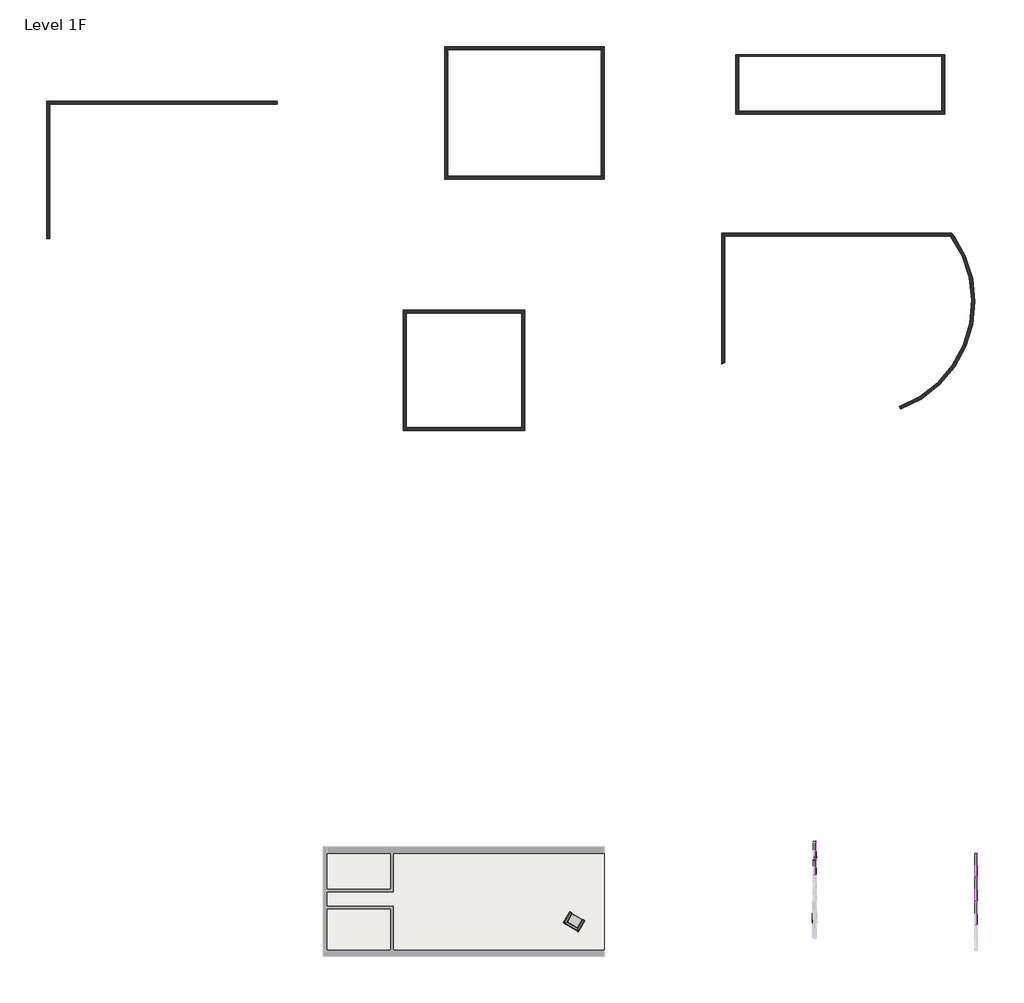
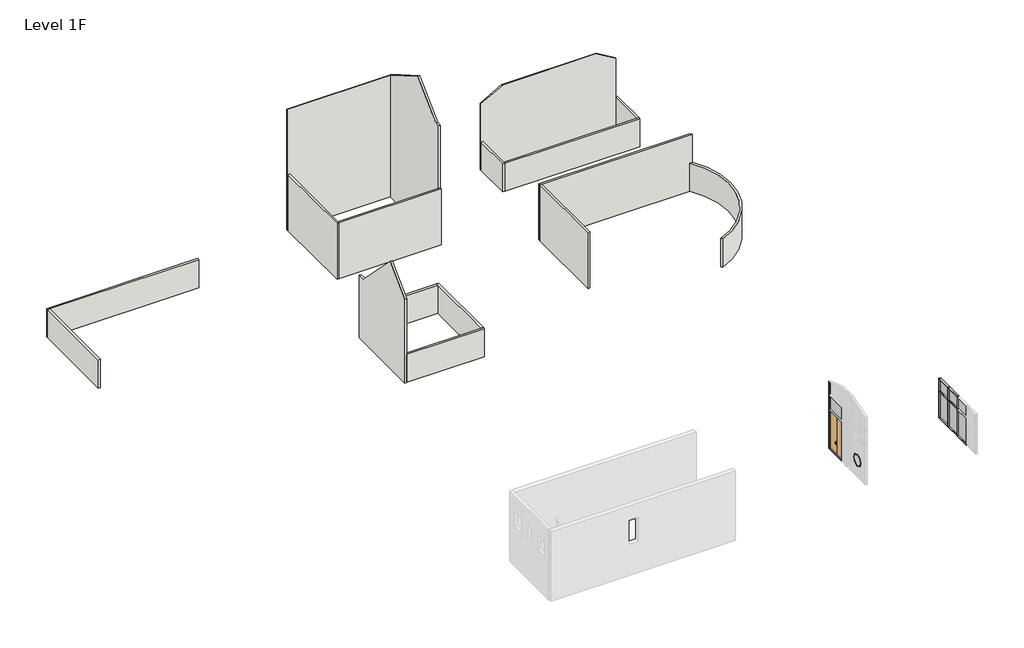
# One storey, part 2 of 2: 17 members, 17 walls, 7 plates, 2 proxies, 1 door, 1 furniture element, 1 slab.
"""IFC4 building model written with IfcOpenShell, lengths in millimetres."""

from ifc_helpers import new_model, si_unit, point, frame, frame_2d, origin, place, context, project, spatial, polyline, circle_curve, trimmed, segment, composite_curve, outline, extrude, faceted_brep, transform, mapped, element, save
from ifc_brep_helpers import plane_surface, cylinder_surface, revolved_surface, advanced_brep
from components import m_trim_window_exterior_flat_round_picture_frame_20400262, m_door_curtain_wall_double_glass_m_door_curtain_wall_double_733e1639, m_chair_corbu_m_chair_corbu_62085674, rectangular_mullion_50_x_150mm_53f686a5, rectangular_mullion_50_x_150mm_8f456225, rectangular_mullion_50_x_150mm_18e46138, rectangular_mullion_50_x_150mm_87e1da99, rectangular_mullion_50_x_150mm_6225e4e3, rectangular_mullion_50_x_150mm_662c37b1, rectangular_mullion_50_x_150mm_b3a53f5b, rectangular_mullion_50_x_150mm_00d54206, rectangular_mullion_50_x_150mm_5f5d7509, rectangular_mullion_50_x_150mm_06e5b0ac, rectangular_mullion_50_x_150mm_1e3c48d4, rectangular_mullion_50_x_150mm_128d93fb, system_panel_glazed_f465e8e4, system_panel_glazed_e98588a4, system_panel_glazed_da0c020f, system_panel_glazed_390bf5ad, system_panel_glazed_fd5f4e28

model = new_model("IFC4")

# Units and contexts
model_context = context("Model", 3, world=origin())
ifc_project = project(units=[si_unit("LENGTHUNIT", "METRE", prefix="MILLI")], contexts=[model_context])

# Site, building, storey
site = spatial("IfcSite", under=ifc_project)
building = spatial("IfcBuilding", under=site)
storey = spatial("IfcBuildingStorey", under=building, Name="Level 1F", Elevation=100.0)

# Proxies
placement = place(None, origin())
m_trim_window_exterior_flat_round_picture_frame_shape = m_trim_window_exterior_flat_round_picture_frame_20400262(model_context)
element("IfcBuildingElementProxy", 1, Name="M_Trim-Window-Exterior-Flat-Round : Picture Frame", ObjectType="M_Trim-Window-Exterior-Flat-Round : Picture Frame", at=placement, inside=storey, context=model_context, shape_type="MappedRepresentation", body=[
    mapped(m_trim_window_exterior_flat_round_picture_frame_shape, transform((19526.2760724, -10895.0423226, 2090.2249317), x_axis=(0.0, 1.0, 0.0), y_axis=(0.0, 0.0, 1.0), z_axis=(1.0, 0.0, 0.0))),
])
element("IfcBuildingElementProxy", 2, Name="M_Trim-Window-Interior-Flat-Round : Picture Frame", ObjectType="M_Trim-Window-Interior-Flat-Round : Picture Frame", at=placement, inside=storey, context=model_context, shape_type="MappedRepresentation", body=[
    mapped(m_trim_window_exterior_flat_round_picture_frame_shape, transform((19326.2760724, -10895.0423226, 2090.2249317), x_axis=(0.0, -1.0, 0.0), y_axis=(0.0, 0.0, 1.0), z_axis=(-1.0, 0.0, 0.0))),
])

# Door
m_door_curtain_wall_double_glass_m_door_curtain_wall_double_shape = m_door_curtain_wall_double_glass_m_door_curtain_wall_double_733e1639(model_context)
element("IfcDoor", 3, ObjectType="M_Door-Curtain-Wall-Double-Glass : M_Door-Curtain-Wall-Double-Glass", at=placement, inside=storey, context=model_context, shape_type="MappedRepresentation", body=[
    mapped(m_door_curtain_wall_double_glass_m_door_curtain_wall_double_shape, transform((19426.2760724, -7634.3966791, 150.0), x_axis=(0.0, -1.0, 0.0), y_axis=(1.0, 0.0, 0.0), z_axis=(0.0, 0.0, 1.0))),
])

# Furniture
m_chair_corbu_m_chair_corbu_shape = m_chair_corbu_m_chair_corbu_62085674(model_context)
element("IfcFurniture", 4, ObjectType="M_Chair-Corbu : M_Chair-Corbu", at=placement, inside=storey, context=model_context, shape_type="MappedRepresentation", body=[
    mapped(m_chair_corbu_m_chair_corbu_shape, transform((6893.346578, -10996.1335961, 100.0), x_axis=(-0.8660254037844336, 0.5000000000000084, 0.0), y_axis=(-0.5000000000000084, -0.8660254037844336, 0.0), z_axis=(0.0, 0.0, 1.0))),
])

# Members
rectangular_mullion_50_x_150mm_shape = rectangular_mullion_50_x_150mm_53f686a5(model_context)
element("IfcMember", 5, ObjectType="Rectangular Mullion : 50 x 150mm", at=placement, inside=storey, context=model_context, shape_type="MappedRepresentation", body=[
    mapped(rectangular_mullion_50_x_150mm_shape, transform((28326.2760724, -8634.3966792, 3613.7564813), x_axis=(0.0, 0.0, 1.0), y_axis=(-1.0, 0.0, 0.0), z_axis=(0.0, -1.0, 0.0))),
])
element("IfcMember", 6, ObjectType="Rectangular Mullion : 50 x 150mm", at=placement, inside=storey, context=model_context, shape_type="MappedRepresentation", body=[
    mapped(rectangular_mullion_50_x_150mm_shape, transform((28326.2760724, -7371.8966791, 100.0), x_axis=(0.0, 0.0, -1.0), y_axis=(-1.0, 0.0, 0.0), z_axis=(0.0, 1.0, 0.0))),
])
rectangular_mullion_50_x_150mm_2_shape = rectangular_mullion_50_x_150mm_8f456225(model_context)
element("IfcMember", 7, ObjectType="Rectangular Mullion : 50 x 150mm", at=placement, inside=storey, context=model_context, shape_type="MappedRepresentation", body=[
    mapped(rectangular_mullion_50_x_150mm_2_shape, transform((28326.2760724, -9971.8966791, 3613.7564813), x_axis=(0.0, 0.0, 1.0), y_axis=(-1.0, 0.0, 0.0), z_axis=(0.0, -1.0, 0.0))),
])
element("IfcMember", 8, ObjectType="Rectangular Mullion : 50 x 150mm", at=placement, inside=storey, context=model_context, shape_type="MappedRepresentation", body=[
    mapped(rectangular_mullion_50_x_150mm_2_shape, transform((28326.2760724, -8684.3966792, 100.0), x_axis=(0.0, 0.0, -1.0), y_axis=(-1.0, 0.0, 0.0), z_axis=(0.0, 1.0, 0.0))),
])
element("IfcMember", 9, ObjectType="Rectangular Mullion : 50 x 150mm", at=placement, inside=storey, context=model_context, shape_type="MappedRepresentation", body=[
    mapped(rectangular_mullion_50_x_150mm_2_shape, transform((28326.2760724, -10021.8966791, 100.0), x_axis=(0.0, 0.0, -1.0), y_axis=(-1.0, 0.0, 0.0), z_axis=(0.0, 1.0, 0.0))),
])
rectangular_mullion_50_x_150mm_3_shape = rectangular_mullion_50_x_150mm_18e46138(model_context)
element("IfcMember", 10, ObjectType="Rectangular Mullion : 50 x 150mm", at=placement, inside=storey, context=model_context, shape_type="MappedRepresentation", body=[
    mapped(rectangular_mullion_50_x_150mm_3_shape, transform((28326.2760724, -8634.3966792, 2500.0), x_axis=(0.0, 0.0, 1.0), y_axis=(-1.0, 0.0, 0.0), z_axis=(0.0, -1.0, 0.0))),
])
rectangular_mullion_50_x_150mm_4_shape = rectangular_mullion_50_x_150mm_87e1da99(model_context)
element("IfcMember", 11, ObjectType="Rectangular Mullion : 50 x 150mm", at=placement, inside=storey, context=model_context, shape_type="MappedRepresentation", body=[
    mapped(rectangular_mullion_50_x_150mm_4_shape, transform((28326.2760724, -9971.8966791, 2500.0), x_axis=(0.0, 0.0, 1.0), y_axis=(-1.0, 0.0, 0.0), z_axis=(0.0, -1.0, 0.0))),
])
rectangular_mullion_50_x_150mm_5_shape = rectangular_mullion_50_x_150mm_6225e4e3(model_context)
element("IfcMember", 12, ObjectType="Rectangular Mullion : 50 x 150mm", at=placement, inside=storey, context=model_context, shape_type="MappedRepresentation", body=[
    mapped(rectangular_mullion_50_x_150mm_5_shape, transform((28326.2760724, -8659.3966792, 100.0), x_axis=(0.0, -1.0, 0.0), y_axis=(-1.0, 0.0, 0.0), z_axis=(0.0, 0.0, -1.0))),
])
element("IfcMember", 13, ObjectType="Rectangular Mullion : 50 x 150mm", at=placement, inside=storey, context=model_context, shape_type="MappedRepresentation", body=[
    mapped(rectangular_mullion_50_x_150mm_5_shape, transform((28326.2760724, -9996.8966791, 100.0), x_axis=(0.0, -1.0, 0.0), y_axis=(-1.0, 0.0, 0.0), z_axis=(0.0, 0.0, -1.0))),
])
rectangular_mullion_50_x_150mm_6_shape = rectangular_mullion_50_x_150mm_662c37b1(model_context)
element("IfcMember", 14, ObjectType="Rectangular Mullion : 50 x 150mm", at=placement, inside=storey, context=model_context, shape_type="MappedRepresentation", body=[
    mapped(rectangular_mullion_50_x_150mm_6_shape, transform((28326.2760724, -7321.8966791, 2500.0), x_axis=(0.0, 1.0, 0.0), y_axis=(-1.0, 0.0, 0.0), z_axis=(0.0, 0.0, 1.0))),
])
rectangular_mullion_50_x_150mm_7_shape = rectangular_mullion_50_x_150mm_b3a53f5b(model_context)
element("IfcMember", 15, ObjectType="Rectangular Mullion : 50 x 150mm", at=placement, inside=storey, context=model_context, shape_type="MappedRepresentation", body=[
    mapped(rectangular_mullion_50_x_150mm_7_shape, transform((28326.2760724, -8659.3966792, 2500.0), x_axis=(0.0, -1.0, 0.0), y_axis=(-1.0, 0.0, 0.0), z_axis=(0.0, 0.0, -1.0))),
])
element("IfcMember", 16, ObjectType="Rectangular Mullion : 50 x 150mm", at=placement, inside=storey, context=model_context, shape_type="MappedRepresentation", body=[
    mapped(rectangular_mullion_50_x_150mm_7_shape, transform((28326.2760724, -9996.8966791, 2500.0), x_axis=(0.0, -1.0, 0.0), y_axis=(-1.0, 0.0, 0.0), z_axis=(0.0, 0.0, -1.0))),
])
rectangular_mullion_50_x_150mm_8_shape = rectangular_mullion_50_x_150mm_00d54206(model_context)
element("IfcMember", 17, ObjectType="Rectangular Mullion : 50 x 150mm", at=placement, inside=storey, context=model_context, shape_type="MappedRepresentation", body=[
    mapped(rectangular_mullion_50_x_150mm_8_shape, transform((28326.2760724, -7321.8966791, 3613.7564813), x_axis=(0.0, 1.0, 0.0), y_axis=(-1.0, 0.0, 0.0), z_axis=(0.0, 0.0, 1.0))),
])
rectangular_mullion_50_x_150mm_9_shape = rectangular_mullion_50_x_150mm_5f5d7509(model_context)
element("IfcMember", 18, ObjectType="Rectangular Mullion : 50 x 150mm", at=placement, inside=storey, context=model_context, shape_type="MappedRepresentation", body=[
    mapped(rectangular_mullion_50_x_150mm_9_shape, transform((19426.2760724, -6721.8966791, 100.0), x_axis=(0.0, 0.0, -1.0), y_axis=(-1.0, 0.0, 0.0), z_axis=(0.0, 1.0, 0.0))),
])
rectangular_mullion_50_x_150mm_10_shape = rectangular_mullion_50_x_150mm_06e5b0ac(model_context)
element("IfcMember", 19, ObjectType="Rectangular Mullion : 50 x 150mm", at=placement, inside=storey, context=model_context, shape_type="MappedRepresentation", body=[
    mapped(rectangular_mullion_50_x_150mm_10_shape, transform((19426.2760724, -6671.8966791, 3600.0), x_axis=(0.0, 1.0, 0.0), y_axis=(-1.0, 0.0, 0.0), z_axis=(0.0, 0.0, 1.0))),
])
rectangular_mullion_50_x_150mm_11_shape = rectangular_mullion_50_x_150mm_1e3c48d4(model_context)
element("IfcMember", 20, ObjectType="Rectangular Mullion : 50 x 150mm", at=placement, inside=storey, context=model_context, shape_type="MappedRepresentation", body=[
    mapped(rectangular_mullion_50_x_150mm_11_shape, transform((19426.2760724, -6671.8966791, 4900.0), x_axis=(0.0, 1.0, 0.0), y_axis=(-1.0, 0.0, 0.0), z_axis=(0.0, 0.0, 1.0))),
])
rectangular_mullion_50_x_150mm_12_shape = rectangular_mullion_50_x_150mm_128d93fb(model_context)
element("IfcMember", 21, ObjectType="Rectangular Mullion : 50 x 150mm", at=placement, inside=storey, context=model_context, shape_type="MappedRepresentation", body=[
    mapped(rectangular_mullion_50_x_150mm_12_shape, transform((19426.2760724, -6671.8966791, 6075.169852), x_axis=(0.0, 1.0, 0.0), y_axis=(-1.0, 0.0, 0.0), z_axis=(0.0, 0.0, 1.0))),
])

# Plates
system_panel_glazed_shape = system_panel_glazed_f465e8e4(model_context)
element("IfcPlate", 22, ObjectType="System Panel : Glazed", at=placement, inside=storey, context=model_context, shape_type="MappedRepresentation", body=[
    mapped(system_panel_glazed_shape, transform((28326.2760724, -8003.1466791, 150.0), x_axis=(0.0, -1.0, 0.0), y_axis=(1.0, 0.0, 0.0), z_axis=(0.0, 0.0, 1.0))),
])
system_panel_glazed_2_shape = system_panel_glazed_e98588a4(model_context)
element("IfcPlate", 23, ObjectType="System Panel : Glazed", at=placement, inside=storey, context=model_context, shape_type="MappedRepresentation", body=[
    mapped(system_panel_glazed_2_shape, transform((28326.2760724, -9328.1466791, 150.0), x_axis=(0.0, -1.0, 0.0), y_axis=(1.0, 0.0, 0.0), z_axis=(0.0, 0.0, 1.0))),
])
element("IfcPlate", 24, ObjectType="System Panel : Glazed", at=placement, inside=storey, context=model_context, shape_type="MappedRepresentation", body=[
    mapped(system_panel_glazed_2_shape, transform((28326.2760724, -10665.646679, 150.0), x_axis=(0.0, -1.0, 0.0), y_axis=(1.0, 0.0, 0.0), z_axis=(0.0, 0.0, 1.0))),
])
system_panel_glazed_3_shape = system_panel_glazed_da0c020f(model_context)
element("IfcPlate", 25, ObjectType="System Panel : Glazed", at=placement, inside=storey, context=model_context, shape_type="MappedRepresentation", body=[
    mapped(system_panel_glazed_3_shape, transform((28326.2760724, -8003.1466791, 2525.0), x_axis=(0.0, -1.0, 0.0), y_axis=(1.0, 0.0, 0.0), z_axis=(0.0, 0.0, 1.0))),
])
system_panel_glazed_4_shape = system_panel_glazed_390bf5ad(model_context)
element("IfcPlate", 26, ObjectType="System Panel : Glazed", at=placement, inside=storey, context=model_context, shape_type="MappedRepresentation", body=[
    mapped(system_panel_glazed_4_shape, transform((28326.2760724, -9328.1466791, 2525.0), x_axis=(0.0, -1.0, 0.0), y_axis=(1.0, 0.0, 0.0), z_axis=(0.0, 0.0, 1.0))),
])
element("IfcPlate", 27, ObjectType="System Panel : Glazed", at=placement, inside=storey, context=model_context, shape_type="MappedRepresentation", body=[
    mapped(system_panel_glazed_4_shape, transform((28326.2760724, -10665.646679, 2525.0), x_axis=(0.0, -1.0, 0.0), y_axis=(1.0, 0.0, 0.0), z_axis=(0.0, 0.0, 1.0))),
])
system_panel_glazed_5_shape = system_panel_glazed_fd5f4e28(model_context)
element("IfcPlate", 28, ObjectType="System Panel : Glazed", at=placement, inside=storey, context=model_context, shape_type="MappedRepresentation", body=[
    mapped(system_panel_glazed_5_shape, transform((19426.2760724, -7634.3966791, 3625.0), x_axis=(0.0, -1.0, 0.0), y_axis=(1.0, 0.0, 0.0), z_axis=(0.0, 0.0, 1.0))),
])

# Slab
element("IfcSlab", 29, ObjectType="Standard Timber-Wood Finish", at=placement, inside=storey, context=model_context, shape_type="Brep", body=[
    faceted_brep([(7826.2760724, -7308.8966791, -141.0), (7826.2760724, -7321.8966791, -141.0), (7826.2760724, -12671.8966791, -141.0), (7826.2760724, -12684.8966791, -141.0), (-7473.7239276, -12684.8966791, -141.0), (-7473.7239276, -12671.8966791, -141.0), (-7473.7239276, -7321.8966791, -141.0), (-7473.7239276, -7308.8966791, -141.0), (7826.2760724, -7308.8966791, 100.0), (-7473.7239276, -7308.8966791, 100.0), (-7473.7239276, -7321.8966791, 100.0), (-7473.7239276, -12671.8966791, 100.0), (-7473.7239276, -12684.8966791, 100.0), (7826.2760724, -12684.8966791, 100.0), (7826.2760724, -12671.8966791, 100.0), (7826.2760724, -7321.8966791, 100.0)], [[[0, 1, 2, 3, 4, 5, 6, 7]], [[8, 9, 10, 11, 12, 13, 14, 15]], [[3, 2, 1, 0, 8, 15, 14, 13]], [[4, 3, 13, 12]], [[7, 6, 5, 4, 12, 11, 10, 9]], [[0, 7, 9, 8]]]),
])

# Walls
element("IfcWall", 30, ObjectType="Generic - 90mm Brick", at=placement, inside=storey, context=model_context, shape_type="Brep", body=[
    faceted_brep([(15073.1735776, 36641.5338083, 100.0), (15237.1735776, 36641.5338083, 100.0), (26426.0199122, 36641.5338083, 100.0), (26426.0199122, 36641.5338083, 6094.6854441), (24730.9691046, 36641.5338083, 7073.3234842), (16932.2243852, 36641.5338083, 7073.3234842), (15073.1735776, 36641.5338083, 6000.0), (15073.1735776, 36641.5338083, 2600.0), (15073.1735776, 36731.5338083, 100.0), (15073.1735776, 36731.5338083, 6000.0), (16842.2243852, 36731.5338083, 7021.36196), (24820.9691046, 36731.5338083, 7021.36196), (26426.0199122, 36731.5338083, 6094.6854441), (26426.0199122, 36731.5338083, 2600.0), (26426.0199122, 36731.5338083, 100.0)], [[[0, 1, 2, 3, 4, 5, 6, 7]], [[8, 9, 10, 11, 12, 13, 14]], [[2, 1, 0, 8, 14]], [[3, 2, 14, 13, 12]], [[0, 7, 6, 9, 8]], [[6, 5, 10, 9]], [[5, 4, 11, 10]], [[4, 3, 12, 11]]]),
])
element("IfcWall", 31, ObjectType="Interior - Blockwork 140", at=placement, inside=storey, context=model_context, shape_type="Brep", body=[
    faceted_brep([(-22927.6057444, 33992.4859959, 100.0), (-22763.6057444, 33992.4859959, 100.0), (-10199.7466259, 33992.4859959, 100.0), (-10199.7466259, 33992.4859959, 2600.0), (-22763.6057444, 33992.4859959, 2600.0), (-22927.6057444, 33992.4859959, 2600.0), (-22927.6057444, 34156.4859959, 100.0), (-22927.6057444, 34156.4859959, 2600.0), (-10199.7466259, 34156.4859959, 2600.0), (-10199.7466259, 34156.4859959, 100.0)], [[[0, 1, 2, 3, 4, 5]], [[6, 7, 8, 9]], [[2, 1, 0, 6, 9]], [[5, 4, 3, 8, 7]], [[0, 5, 7, 6]], [[3, 2, 9, 8]]]),
])
element("IfcWall", 32, ObjectType="Interior - Blockwork 140", at=placement, inside=storey, context=model_context, shape_type="Brep", body=[
    faceted_brep([(-22763.6057444, 26589.6419981, 100.0), (-22763.6057444, 26753.6419981, 100.0), (-22763.6057444, 33992.4859959, 100.0), (-22763.6057444, 33992.4859959, 2600.0), (-22763.6057444, 26589.6419981, 2600.0), (-22927.6057444, 26589.6419981, 100.0), (-22927.6057444, 26589.6419981, 2600.0), (-22927.6057444, 33992.4859959, 2600.0), (-22927.6057444, 33992.4859959, 100.0)], [[[0, 1, 2, 3, 4]], [[5, 6, 7, 8]], [[2, 1, 0, 5, 8]], [[4, 3, 7, 6]], [[0, 4, 6, 5]], [[3, 2, 8, 7]]]),
])
element("IfcWall", 33, ObjectType="Interior - Blockwork 140", at=placement, inside=storey, context=model_context, shape_type="Brep", body=[
    faceted_brep([(3429.5901208, 16151.8981368, 100.0), (3265.5901208, 16151.8981368, 100.0), (-3096.8701232, 16151.8981368, 100.0), (-3096.8701232, 16151.8981368, 2600.0), (3265.5901208, 16151.8981368, 2600.0), (3429.5901208, 16151.8981368, 2600.0), (3429.5901208, 15987.8981368, 100.0), (3429.5901208, 15987.8981368, 2600.0), (-3096.8701232, 15987.8981368, 2600.0), (-3096.8701232, 15987.8981368, 100.0)], [[[0, 1, 2, 3, 4, 5]], [[6, 7, 8, 9]], [[2, 1, 0, 6, 9]], [[5, 4, 3, 8, 7]], [[0, 5, 7, 6]], [[3, 2, 9, 8]]]),
])
element("IfcWall", 34, ObjectType="Interior - Blockwork 140", at=placement, inside=storey, context=model_context, shape_type="Brep", body=[
    faceted_brep([(3265.5901208, 22636.9685625, 100.0), (3265.5901208, 22472.9685625, 100.0), (3265.5901208, 16151.8981368, 100.0), (3265.5901208, 16151.8981368, 2600.0), (3265.5901208, 22472.9685625, 2600.0), (3265.5901208, 22636.9685625, 2600.0), (3429.5901208, 22636.9685625, 100.0), (3429.5901208, 22636.9685625, 2600.0), (3429.5901208, 16151.8981368, 2600.0), (3429.5901208, 16151.8981368, 100.0)], [[[0, 1, 2, 3, 4, 5]], [[6, 7, 8, 9]], [[2, 1, 0, 6, 9]], [[5, 4, 3, 8, 7]], [[0, 5, 7, 6]], [[3, 2, 9, 8]]]),
])
element("IfcWall", 35, ObjectType="Interior - Blockwork 140", at=placement, inside=storey, context=model_context, shape_type="SweptSolid", body=[
    extrude(outline(polyline([(3265.5901208, 22472.9685625), (-3096.8701232, 22472.9685625), (-3096.8701232, 22636.9685625), (3265.5901208, 22636.9685625), (3265.5901208, 22472.9685625)])), frame((0.0, 0.0, 100.0), z_axis=(0.0, 0.0, 1.0), x_axis=(1.0, 0.0, 0.0)), (0.0, 0.0, 1.0), 2500.0),
])
element("IfcWall", 36, ObjectType="Interior - Blockwork 140", at=placement, inside=storey, context=model_context, shape_type="Brep", body=[
    faceted_brep([(-3096.8701232, 15987.8981368, 100.0), (-3096.8701232, 16151.8981368, 100.0), (-3096.8701232, 22636.9685625, 100.0), (-3096.8701232, 22636.9685625, 5665.6854249), (-3096.8701232, 22071.2831375, 5665.6854249), (-3096.8701232, 18094.4333497, 9642.5352128), (-3096.8701232, 15987.8981368, 7536.0), (-3096.8701232, 15987.8981368, 2600.0), (-3260.8701232, 15987.8981368, 100.0), (-3260.8701232, 15987.8981368, 7536.0), (-3260.8701232, 18094.4333497, 9642.5352128), (-3260.8701232, 22071.2831375, 5665.6854249), (-3260.8701232, 22636.9685625, 5665.6854249), (-3260.8701232, 22636.9685625, 100.0)], [[[0, 1, 2, 3, 4, 5, 6, 7]], [[8, 9, 10, 11, 12, 13]], [[2, 1, 0, 8, 13]], [[3, 2, 13, 12]], [[0, 7, 6, 9, 8]], [[5, 4, 11, 10]], [[6, 5, 10, 9]], [[4, 3, 12, 11]]]),
])
element("IfcWall", 37, ObjectType="Interior - Blockwork 140", at=placement, inside=storey, context=model_context, shape_type="AdvancedBrep", body=[
    advanced_brep(
    [(14309.1735776, 26711.940445, 100.0), (14473.1735776, 26711.940445, 100.0), (26913.6275497, 26711.940445, 100.0), (27115.3727466, 26711.940445, 100.0), (27115.3727466, 26711.940445, 2600.0), (27115.3727466, 26711.940445, 5100.0), (14473.1735776, 26711.940445, 5100.0), (14309.1735776, 26711.940445, 5100.0), (14309.1735776, 26875.940445, 100.0), (14309.1735776, 26875.940445, 5100.0), (26996.2116697, 26875.940445, 5100.0), (26996.2116697, 26875.940445, 100.0)],
    [
        (0, 1),
        (1, 2),
        (2, 3),
        (3, 4),
        (4, 5),
        (5, 6),
        (6, 7),
        (7, 0),
        (8, 9),
        (9, 10),
        (10, 11),
        (11, 8),
        (0, 8),
        (11, 3, circle_curve(frame((21942.238985, 23078.4739278, 100.0), z_axis=(0.0, 0.0, -1.0), x_axis=(1.0, 0.0, 0.0)), 6321.6605292)),
        (5, 10, circle_curve(frame((21942.238985, 23078.4739278, 5100.0), z_axis=(0.0, 0.0, 1.0), x_axis=(1.0, 0.0, 0.0)), 6321.6605292)),
        (9, 7),
    ],
    [
        plane_surface(frame((14391.1735776, 26711.940445, 100.0), z_axis=(0.0, -1.0, 0.0), x_axis=(1.0, 0.0, 0.0))),
        plane_surface(frame((14391.1735776, 26875.940445, 100.0), z_axis=(0.0, 1.0, 0.0), x_axis=(-1.0, 0.0, 0.0))),
        plane_surface(frame((14391.1735776, 26711.940445, 100.0), z_axis=(0.0, 0.0, -1.0), x_axis=(0.0, 1.0, 0.0))),
        plane_surface(frame((26955.0896789, 26711.940445, 5100.0), z_axis=(0.0, 0.0, 1.0), x_axis=(0.0, 1.0, 0.0))),
        plane_surface(frame((14309.1735776, 23838.0420675, 100.0), z_axis=(-1.0, 0.0, 0.0), x_axis=(0.0, -1.0, 0.0))),
        cylinder_surface(frame((21942.238985, 23078.4739278, 100.0), z_axis=(0.0, 0.0, 1.0), x_axis=(1.0, 0.0, 0.0)), 6321.6605292),
    ],
    [
        (0, [[1, 2, 3, 4, 5, 6, 7, 8]]),
        (1, [[9, 10, 11, 12]]),
        (2, [[-3, -2, -1, 13, -12, 14]]),
        (3, [[-7, -6, 15, -10, 16]]),
        (4, [[-8, -16, -9, -13]]),
        (5, [[-5, -4, -14, -11, -15]]),
    ],
),
])
element("IfcWall", 38, ObjectType="Interior - Blockwork 140", at=placement, inside=storey, context=model_context, shape_type="AdvancedBrep", body=[
    advanced_brep(
    [(14473.1735776, 19740.1929998, 100.0), (14473.1735776, 19918.4462681, 100.0), (14473.1735776, 26711.940445, 100.0), (14473.1735776, 26711.940445, 5100.0), (14473.1735776, 19740.1929998, 5100.0), (14309.1735776, 19667.2802302, 100.0), (14309.1735776, 19667.2802302, 5100.0), (14309.1735776, 26711.940445, 5100.0), (14309.1735776, 26711.940445, 100.0)],
    [
        (0, 1),
        (1, 2),
        (2, 3),
        (3, 4),
        (4, 0),
        (5, 6),
        (6, 7),
        (7, 8),
        (8, 5),
        (0, 5, circle_curve(frame((17605.9041675, 12472.9618131, 100.0), z_axis=(0.0, 0.0, 1.0), x_axis=(1.0, 0.0, 0.0)), 7913.7001503)),
        (8, 2),
        (3, 7),
        (6, 4, circle_curve(frame((17605.9041675, 12472.9618131, 5100.0), z_axis=(0.0, 0.0, -1.0), x_axis=(1.0, 0.0, 0.0)), 7913.7001503)),
    ],
    [
        plane_surface(frame((14473.1735776, 23838.0420675, 100.0), z_axis=(1.0, 0.0, 0.0), x_axis=(0.0, 1.0, 0.0))),
        plane_surface(frame((14309.1735776, 23838.0420675, 100.0), z_axis=(-1.0, 0.0, 0.0), x_axis=(0.0, -1.0, 0.0))),
        plane_surface(frame((14473.1735776, 19793.940445, 100.0), z_axis=(0.0, 0.0, -1.0), x_axis=(-1.0, 0.0, 0.0))),
        plane_surface(frame((14473.1735776, 26793.940445, 5100.0), z_axis=(0.0, 0.0, 1.0), x_axis=(-1.0, 0.0, 0.0))),
        plane_surface(frame((14391.1735776, 26711.940445, 100.0), z_axis=(0.0, 1.0, 0.0), x_axis=(1.0, 0.0, 0.0))),
        revolved_surface(polyline([(25519.6043178, 12472.9618131, 100.0), (25519.6043178, 12472.9618131, 5100.0)]), (17605.9041675, 12472.9618131, 100.0), (0.0, 0.0, -1.0)),
    ],
    [
        (0, [[1, 2, 3, 4, 5]]),
        (1, [[6, 7, 8, 9]]),
        (2, [[-2, -1, 10, -9, 11]]),
        (3, [[-4, 12, -7, 13]]),
        (4, [[-3, -11, -8, -12]]),
        (5, [[-5, -13, -6, -10]]),
    ],
),
])
element("IfcWall", 39, ObjectType="Interior - Blockwork 140", at=placement, inside=storey, context=model_context, shape_type="Brep", body=[
    faceted_brep([(7833.4943475, 30017.3656485, 100.0), (7669.4943475, 30017.3656485, 100.0), (-796.4220618, 30017.3656485, 100.0), (-796.4220618, 30017.3656485, 5100.0), (7833.4943475, 30017.3656485, 5100.0), (7833.4943475, 29853.3656485, 100.0), (7833.4943475, 29853.3656485, 5100.0), (-796.4220618, 29853.3656485, 5100.0), (-796.4220618, 29853.3656485, 100.0)], [[[0, 1, 2, 3, 4]], [[5, 6, 7, 8]], [[2, 1, 0, 5, 8]], [[4, 3, 7, 6]], [[0, 4, 6, 5]], [[3, 2, 8, 7]]]),
])
element("IfcWall", 40, ObjectType="Interior - Blockwork 140", at=placement, inside=storey, context=model_context, shape_type="Brep", body=[
    faceted_brep([(7669.4943475, 37173.7423017, 100.0), (7669.4943475, 37009.7423017, 100.0), (7669.4943475, 30017.3656485, 100.0), (7669.4943475, 30017.3656485, 10665.6854249), (7669.4943475, 30419.0510734, 10665.6854249), (7669.4943475, 32997.6152395, 13244.249591), (7669.4943475, 37009.7423017, 10927.8469516), (7669.4943475, 37173.7423017, 10833.1615075), (7833.4943475, 37173.7423017, 100.0), (7833.4943475, 37173.7423017, 10833.1615075), (7833.4943475, 32997.6152395, 13244.249591), (7833.4943475, 30419.0510734, 10665.6854249), (7833.4943475, 30017.3656485, 10665.6854249), (7833.4943475, 30017.3656485, 5100.0), (7833.4943475, 30017.3656485, 100.0)], [[[0, 1, 2, 3, 4, 5, 6, 7]], [[8, 9, 10, 11, 12, 13, 14]], [[2, 1, 0, 8, 14]], [[0, 7, 9, 8]], [[3, 2, 14, 13, 12]], [[7, 6, 5, 10, 9]], [[5, 4, 11, 10]], [[4, 3, 12, 11]]]),
])
element("IfcWall", 41, ObjectType="Interior - Blockwork 140", at=placement, inside=storey, context=model_context, shape_type="Brep", body=[
    faceted_brep([(-960.4220618, 37009.7423017, 100.0), (-796.4220618, 37009.7423017, 100.0), (7669.4943475, 37009.7423017, 100.0), (7669.4943475, 37009.7423017, 10927.8469516), (-960.4220618, 37009.7423017, 10927.8469516), (-960.4220618, 37009.7423017, 5100.0), (-960.4220618, 37173.7423017, 100.0), (-960.4220618, 37173.7423017, 10833.1615075), (7669.4943475, 37173.7423017, 10833.1615075), (7669.4943475, 37173.7423017, 100.0)], [[[0, 1, 2, 3, 4, 5]], [[6, 7, 8, 9]], [[2, 1, 0, 6, 9]], [[0, 5, 4, 7, 6]], [[3, 2, 9, 8]], [[4, 3, 8, 7]]]),
])
element("IfcWall", 42, ObjectType="Interior - Blockwork 140", at=placement, inside=storey, context=model_context, shape_type="Brep", body=[
    faceted_brep([(-796.4220618, 29853.3656485, 100.0), (-796.4220618, 30017.3656485, 100.0), (-796.4220618, 37009.7423017, 100.0), (-796.4220618, 37009.7423017, 5100.0), (-796.4220618, 30017.3656485, 5100.0), (-796.4220618, 29853.3656485, 5100.0), (-960.4220618, 29853.3656485, 100.0), (-960.4220618, 29853.3656485, 5100.0), (-960.4220618, 37009.7423017, 5100.0), (-960.4220618, 37009.7423017, 100.0)], [[[0, 1, 2, 3, 4, 5]], [[6, 7, 8, 9]], [[2, 1, 0, 6, 9]], [[5, 4, 3, 8, 7]], [[0, 5, 7, 6]], [[3, 2, 9, 8]]]),
])
element("IfcWall", 43, ObjectType="Interior - Blockwork 140", at=placement, inside=storey, context=model_context, shape_type="SweptSolid", body=[
    extrude(outline(composite_curve([segment(polyline([(26913.6275497, 26711.940445), (27115.3727466, 26711.940445)]), True, "CONTINUOUS"), segment(trimmed(circle_curve(frame_2d((21942.238985, 23078.4739278)), 6321.6605292), [point((27115.3727466, 26711.940445))], [point((24180.2803025, 17166.235527))], False, "CARTESIAN"), True, "CONTINUOUS"), segment(trimmed(circle_curve(frame_2d((17605.9041675, 12472.9618131)), 8077.7001503), [point((24180.2803025, 17166.235527))], [point((24079.8936955, 17303.7691275))], True, "CARTESIAN"), True, "CONTINUOUS"), segment(trimmed(circle_curve(frame_2d((21942.238985, 23078.4739278)), 6157.6605292), [point((24079.8936955, 17303.7691275))], [point((26913.6275497, 26711.940445))], True, "CARTESIAN"), True, "CONTINUOUS")], self_intersect=False)), frame((0.0, 0.0, 100.0), z_axis=(0.0, 0.0, 1.0), x_axis=(1.0, 0.0, 0.0)), (0.0, 0.0, 1.0), 2500.0),
])
element("IfcWall", 44, ObjectType="Interior - Blockwork 140", at=placement, inside=storey, context=model_context, shape_type="Brep", body=[
    faceted_brep([(26590.0199122, 33604.5338083, 100.0), (26426.0199122, 33604.5338083, 100.0), (15237.1735776, 33604.5338083, 100.0), (15237.1735776, 33604.5338083, 2600.0), (26426.0199122, 33604.5338083, 2600.0), (26590.0199122, 33604.5338083, 2600.0), (26590.0199122, 33440.5338083, 100.0), (26590.0199122, 33440.5338083, 2600.0), (15237.1735776, 33440.5338083, 2600.0), (15237.1735776, 33440.5338083, 100.0)], [[[0, 1, 2, 3, 4, 5]], [[6, 7, 8, 9]], [[2, 1, 0, 6, 9]], [[5, 4, 3, 8, 7]], [[0, 5, 7, 6]], [[3, 2, 9, 8]]]),
])
element("IfcWall", 45, ObjectType="Interior - Blockwork 140", at=placement, inside=storey, context=model_context, shape_type="Brep", body=[
    faceted_brep([(26426.0199122, 36731.5338083, 100.0), (26426.0199122, 36641.5338083, 100.0), (26426.0199122, 33604.5338083, 100.0), (26426.0199122, 33604.5338083, 2600.0), (26426.0199122, 36731.5338083, 2600.0), (26590.0199122, 36731.5338083, 100.0), (26590.0199122, 36731.5338083, 2600.0), (26590.0199122, 33604.5338083, 2600.0), (26590.0199122, 33604.5338083, 100.0)], [[[0, 1, 2, 3, 4]], [[5, 6, 7, 8]], [[2, 1, 0, 5, 8]], [[4, 3, 7, 6]], [[0, 4, 6, 5]], [[3, 2, 8, 7]]]),
])
element("IfcWall", 46, ObjectType="Interior - Blockwork 140", at=placement, inside=storey, context=model_context, shape_type="Brep", body=[
    faceted_brep([(15237.1735776, 33440.5338083, 100.0), (15237.1735776, 33604.5338083, 100.0), (15237.1735776, 36641.5338083, 100.0), (15237.1735776, 36641.5338083, 2600.0), (15237.1735776, 33604.5338083, 2600.0), (15237.1735776, 33440.5338083, 2600.0), (15073.1735776, 33440.5338083, 100.0), (15073.1735776, 33440.5338083, 2600.0), (15073.1735776, 36641.5338083, 2600.0), (15073.1735776, 36641.5338083, 100.0)], [[[0, 1, 2, 3, 4, 5]], [[6, 7, 8, 9]], [[2, 1, 0, 6, 9]], [[5, 4, 3, 8, 7]], [[0, 5, 7, 6]], [[3, 2, 9, 8]]]),
])

save(model, "model.ifc")
